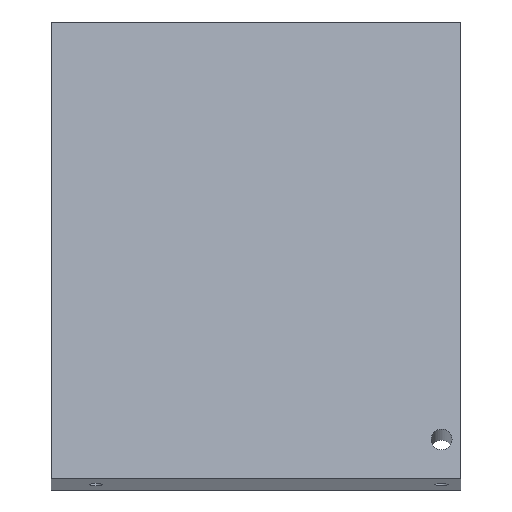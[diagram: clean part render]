
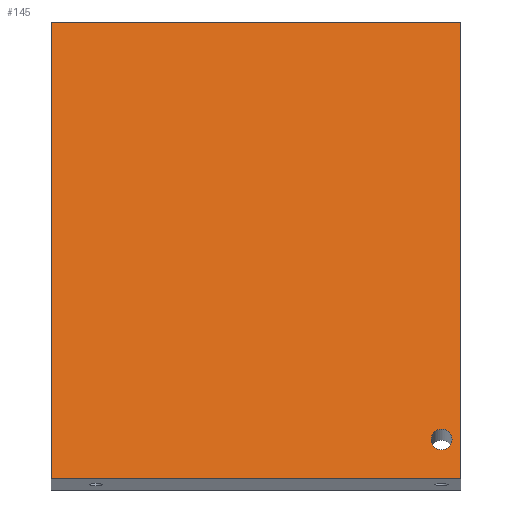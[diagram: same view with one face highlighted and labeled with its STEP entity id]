
A CAD part, top view. The second image highlights one B-rep face of the part: STEP entity #145.
In plain terms, the highlighted planar face has unit normal (0, 0.174, 0.985).
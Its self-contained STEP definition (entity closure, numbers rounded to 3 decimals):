
#78=CARTESIAN_POINT('',(2568.,184.377,1227.932));
#79=VERTEX_POINT('',#78);
#86=CARTESIAN_POINT('',(2568.,41.589,1253.109));
#87=VERTEX_POINT('',#86);
#88=CARTESIAN_POINT('',(2568.,184.377,1227.932));
#89=DIRECTION('',(0.0,-0.985,0.174));
#90=VECTOR('',#89,1.);
#91=LINE('',#88,#90);
#92=EDGE_CURVE('',#79,#87,#91,.T.);
#104=CARTESIAN_POINT('',(2568.,184.377,1227.932));
#105=DIRECTION('',(0.0,0.174,0.985));
#106=DIRECTION('',(-1.0,0.0,0.0));
#107=AXIS2_PLACEMENT_3D('',#104,#105,#106);
#108=PLANE('',#107);
#109=CARTESIAN_POINT('',(2440.,184.377,1227.932));
#110=VERTEX_POINT('',#109);
#111=CARTESIAN_POINT('',(2568.,184.377,1227.932));
#112=DIRECTION('',(-1.0,0.,0.));
#113=VECTOR('',#112,1.);
#114=LINE('',#111,#113);
#115=EDGE_CURVE('',#79,#110,#114,.T.);
#116=ORIENTED_EDGE('',*,*,#115,.T.);
#117=CARTESIAN_POINT('',(2440.,41.589,1253.109));
#118=VERTEX_POINT('',#117);
#119=CARTESIAN_POINT('',(2440.,184.377,1227.932));
#120=DIRECTION('',(0.0,-0.985,0.174));
#121=VECTOR('',#120,1.);
#122=LINE('',#119,#121);
#123=EDGE_CURVE('',#110,#118,#122,.T.);
#124=ORIENTED_EDGE('',*,*,#123,.T.);
#125=CARTESIAN_POINT('',(2568.,41.589,1253.109));
#126=DIRECTION('',(-1.0,0.,0.));
#127=VECTOR('',#126,1.);
#128=LINE('',#125,#127);
#129=EDGE_CURVE('',#87,#118,#128,.T.);
#130=ORIENTED_EDGE('',*,*,#129,.F.);
#131=ORIENTED_EDGE('',*,*,#92,.F.);
#132=EDGE_LOOP('',(#116,#124,#130,#131));
#133=FACE_OUTER_BOUND('',#132,.T.);
#134=CARTESIAN_POINT('',(2565.3,53.889,1250.94));
#135=VERTEX_POINT('',#134);
#136=CARTESIAN_POINT('',(2562.0,53.889,1250.94));
#137=DIRECTION('',(0.0,0.174,0.985));
#138=DIRECTION('',(1.0,0.0,0.0));
#139=AXIS2_PLACEMENT_3D('',#136,#137,#138);
#140=CIRCLE('',#139,3.3);
#141=EDGE_CURVE('',#135,#135,#140,.T.);
#142=ORIENTED_EDGE('',*,*,#141,.F.);
#143=EDGE_LOOP('',(#142));
#144=FACE_BOUND('',#143,.T.);
#145=ADVANCED_FACE('',(#133,#144),#108,.T.);
